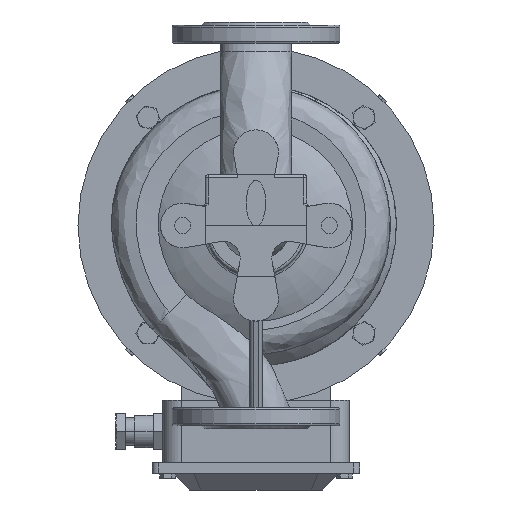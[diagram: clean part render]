
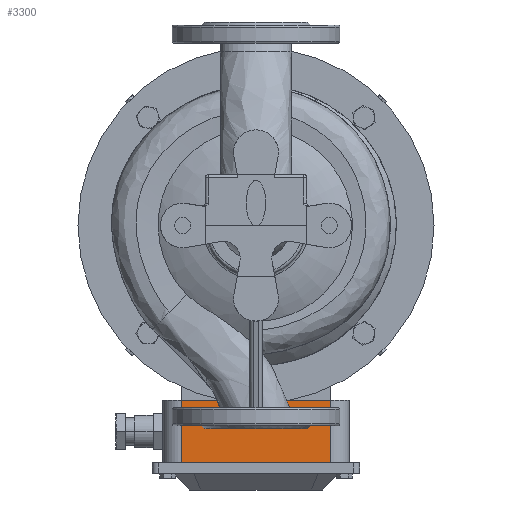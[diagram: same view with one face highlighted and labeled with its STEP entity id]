
A CAD part, front view. The second image highlights one B-rep face of the part: STEP entity #3300.
In plain terms, the highlighted planar face has unit normal (0, -1, 0).
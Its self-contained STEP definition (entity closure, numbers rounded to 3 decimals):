
#26 = ORIENTED_EDGE ( 'NONE', *, *, #36471, .F. ) ;
#3300 = ADVANCED_FACE ( 'NONE', ( #54368 ), #28654, .F. ) ;
#5581 = VECTOR ( 'NONE', #29695, 1000. ) ;
#8791 = LINE ( 'NONE', #9118, #5581 ) ;
#9118 = CARTESIAN_POINT ( 'NONE',  ( 91.8, 327.119, -233. ) ) ;
#9788 = LINE ( 'NONE', #47112, #63750 ) ;
#12060 = CARTESIAN_POINT ( 'NONE',  ( 73.44, 327.119, -172. ) ) ;
#18735 = CARTESIAN_POINT ( 'NONE',  ( 91.8, 327.119, -233. ) ) ;
#22078 = LINE ( 'NONE', #58711, #59150 ) ;
#24203 = DIRECTION ( 'NONE',  ( 0., 0., 1. ) ) ;
#25883 = DIRECTION ( 'NONE',  ( 0., 0., -1. ) ) ;
#26822 = VERTEX_POINT ( 'NONE', #62070 ) ;
#28654 = PLANE ( 'NONE',  #57942 ) ;
#29695 = DIRECTION ( 'NONE',  ( -1., 0., 0. ) ) ;
#31119 = EDGE_CURVE ( 'NONE', #58288, #56594, #9788, .T. ) ;
#33122 = DIRECTION ( 'NONE',  ( 0., 1., 0. ) ) ;
#35310 = EDGE_CURVE ( 'NONE', #26822, #58802, #22078, .T. ) ;
#36471 = EDGE_CURVE ( 'NONE', #26822, #56594, #8791, .T. ) ;
#42765 = ORIENTED_EDGE ( 'NONE', *, *, #35310, .T. ) ;
#43248 = DIRECTION ( 'NONE',  ( -1., 0., 0. ) ) ;
#44783 = EDGE_CURVE ( 'NONE', #58802, #58288, #54189, .T. ) ;
#47112 = CARTESIAN_POINT ( 'NONE',  ( -73.44, 327.119, -233. ) ) ;
#53190 = ORIENTED_EDGE ( 'NONE', *, *, #44783, .T. ) ;
#54189 = LINE ( 'NONE', #65154, #62098 ) ;
#54368 = FACE_OUTER_BOUND ( 'NONE', #63811, .T. ) ;
#55762 = ORIENTED_EDGE ( 'NONE', *, *, #31119, .T. ) ;
#56594 = VERTEX_POINT ( 'NONE', #61248 ) ;
#57942 = AXIS2_PLACEMENT_3D ( 'NONE', #18735, #33122, #24203 ) ;
#58288 = VERTEX_POINT ( 'NONE', #62841 ) ;
#58711 = CARTESIAN_POINT ( 'NONE',  ( 73.44, 327.119, -233. ) ) ;
#58802 = VERTEX_POINT ( 'NONE', #12060 ) ;
#59150 = VECTOR ( 'NONE', #63850, 1000. ) ;
#61248 = CARTESIAN_POINT ( 'NONE',  ( -73.44, 327.119, -233. ) ) ;
#62070 = CARTESIAN_POINT ( 'NONE',  ( 73.44, 327.119, -233. ) ) ;
#62098 = VECTOR ( 'NONE', #43248, 1000. ) ;
#62841 = CARTESIAN_POINT ( 'NONE',  ( -73.44, 327.119, -172. ) ) ;
#63750 = VECTOR ( 'NONE', #25883, 1000. ) ;
#63811 = EDGE_LOOP ( 'NONE', ( #53190, #55762, #26, #42765 ) ) ;
#63850 = DIRECTION ( 'NONE',  ( 0., 0., 1. ) ) ;
#65154 = CARTESIAN_POINT ( 'NONE',  ( 91.8, 327.119, -172. ) ) ;
